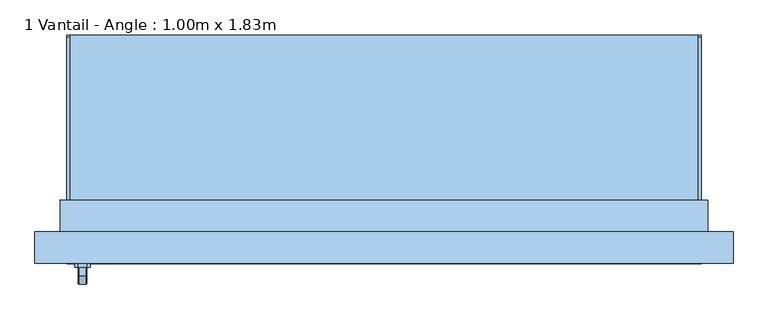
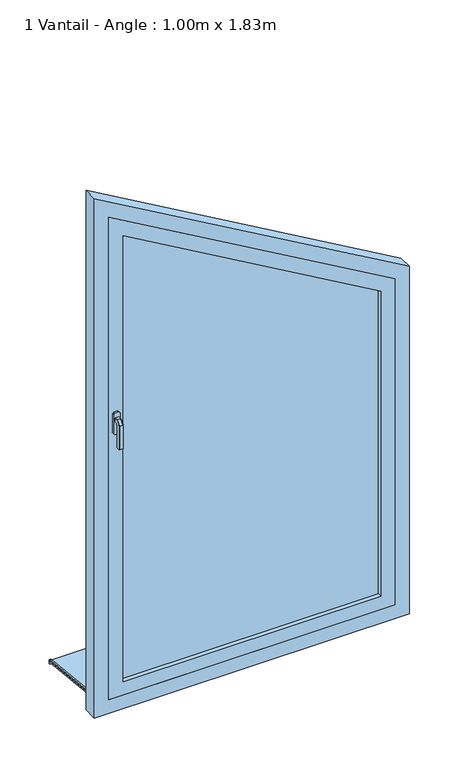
"""IFC4 building model written with IfcOpenShell, lengths in millimetres: window geometry, 1 Vantail - Angle : 1.00m x 1.83m."""

from ifc_helpers import new_model, si_unit, point, frame, frame_2d, origin, place, context, project, spatial, polyline, circle_curve, trimmed, segment, composite_curve, outline, extrude, faceted_brep, source, transform, mapped, element, save


def window_1_vantail_angle_1_00m_x_1_83m_b6dea95d(model_context):
    return source(origin(), model_context, "Body", "SolidModel", [
        faceted_brep([(-469.3539903, -181.0, 1122.0339292), (-467.9660708, -181.0, 1120.6460097), (-467.9660708, -181.0, 1109.3323012), (-469.3323012, -181.0, 1107.9660708), (-480.6676988, -181.0, 1107.9660708), (-482.0339292, -181.0, 1109.3323012), (-482.0339292, -181.0, 1120.6460097), (-480.6460097, -181.0, 1122.0339292), (-469.3539903, -193.9135489, 1122.0339292), (-467.9660708, -193.3386538, 1120.6460097), (-467.9660708, -206.6460097, 1107.3386538), (-467.9660708, -206.6460097, 1020.0), (-467.9660708, -195.3323012, 1020.0), (-467.9660708, -195.3323012, 1102.6523623), (-467.9660708, -188.6523623, 1109.3323012), (-469.3323012, -188.0864511, 1107.9660708), (-480.6676988, -188.0864511, 1107.9660708), (-482.0339292, -188.6523623, 1109.3323012), (-482.0339292, -195.3323012, 1102.6523623), (-482.0339292, -195.3323012, 1020.0), (-482.0339292, -206.6460097, 1020.0), (-482.0339292, -206.6460097, 1107.3386538), (-482.0339292, -193.3386538, 1120.6460097), (-480.6460097, -193.9135489, 1122.0339292), (-469.3539903, -208.0339292, 1107.9135489), (-469.3323012, -193.9660708, 1102.0864511), (-480.6676988, -193.9660708, 1102.0864511), (-480.6460097, -208.0339292, 1107.9135489), (-469.3539903, -208.0339292, 1020.0), (-480.6460097, -208.0339292, 1020.0), (-480.6676988, -193.9660708, 1020.0), (-469.3323012, -193.9660708, 1020.0)], [[[0, 1, 2, 3, 4, 5, 6, 7]], [[1, 0, 8, 9]], [[2, 1, 9, 10, 11, 12, 13, 14]], [[3, 2, 14, 15]], [[4, 3, 15, 16]], [[5, 4, 16, 17]], [[6, 5, 17, 18, 19, 20, 21, 22]], [[7, 6, 22, 23]], [[0, 7, 23, 8]], [[9, 8, 24, 10]], [[15, 14, 13, 25]], [[16, 15, 25, 26]], [[17, 16, 26, 18]], [[23, 22, 21, 27]], [[8, 23, 27, 24]], [[28, 29, 20, 19, 30, 31, 12, 11]], [[10, 24, 28, 11]], [[25, 13, 12, 31]], [[26, 25, 31, 30]], [[18, 26, 30, 19]], [[27, 21, 20, 29]], [[24, 27, 29, 28]]]),
        extrude(outline(polyline([(1140.0, -468.0), (1140.0, -482.0), (1135.0, -487.0), (1065.0, -487.0), (1060.0, -482.0), (1060.0, -468.0), (1065.0, -463.0), (1135.0, -463.0), (1140.0, -468.0)])), frame((0.0, -181.0, 0.0), z_axis=(0.0, 1.0, 0.0), x_axis=(0.0, 0.0, 1.0)), (0.0, 0.0, 1.0), 6.0),
        extrude(outline(polyline([(185.0288776, 10.8229907), (185.0288776, -0.2552118), (180.0288776, 0.2703094), (180.0288776, 6.0933001), (-95.0, 35.0), (-95.0, 50.0), (-90.0, 50.0), (-90.0, 39.7296906), (185.0288776, 10.8229907)])), frame((-500.0, 0.0, 0.0), z_axis=(1.0, 0.0, 0.0), x_axis=(0.0, 1.0, 0.0)), (0.0, 0.0, 1.0), 1000.0),
        extrude(outline(composite_curve([segment(polyline([(185.0288776, 10.8229907), (-90.0, 39.7296906), (-90.0, 44.757232), (181.4469915, 16.2270035)]), True, "CONTINUOUS"), segment(trimmed(circle_curve(frame_2d((181.0288776, 12.2489159)), 4.0), [point((181.4469915, 16.2270035))], [point((185.0288776, 12.2489159))], False, "CARTESIAN"), True, "CONTINUOUS"), segment(polyline([(185.0288776, 12.2489159), (185.0288776, 10.8229907)]), True, "CONTINUOUS")], self_intersect=False)), frame((-500.0, 0.0, 0.0), z_axis=(1.0, 0.0, 0.0), x_axis=(0.0, 1.0, 0.0)), (0.0, 0.0, 1.0), 5.0),
        extrude(outline(composite_curve([segment(polyline([(185.0288776, 10.8229907), (-90.0, 39.7296906), (-90.0, 44.757232), (181.4469915, 16.2270035)]), True, "CONTINUOUS"), segment(trimmed(circle_curve(frame_2d((181.0288776, 12.2489159)), 4.0), [point((181.4469915, 16.2270035))], [point((185.0288776, 12.2489159))], False, "CARTESIAN"), True, "CONTINUOUS"), segment(polyline([(185.0288776, 12.2489159), (185.0288776, 10.8229907)]), True, "CONTINUOUS")], self_intersect=False)), frame((495.0, 0.0, 0.0), z_axis=(1.0, 0.0, 0.0), x_axis=(0.0, 1.0, 0.0)), (0.0, 0.0, 1.0), 5.0),
        extrude(outline(polyline([(35.0, -510.0), (35.0, -500.0), (1865.0, -500.0), (1287.6497308, 500.0), (35.0, 500.0), (35.0, 510.0), (1293.4232335, 510.0), (1882.3205081, -510.0), (35.0, -510.0)])), frame((0.0, -125.0, 0.0), z_axis=(0.0, 1.0, 0.0), x_axis=(0.0, 0.0, 1.0)), (0.0, 0.0, 1.0), 50.0),
        faceted_brep([(-550.0, -175.0, 35.0), (-550.0, -125.0, 35.0), (-500.0, -125.0, 35.0), (-500.0, -95.0, 35.0), (500.0, -95.0, 35.0), (500.0, -125.0, 35.0), (550.0, -125.0, 35.0), (550.0, -175.0, 35.0), (-550.0, -175.0, 1951.6025404), (-550.0, -125.0, 1951.6025404), (550.0, -125.0, 1316.5172443), (500.0, -125.0, 74.3761425), (-500.0, -125.0, 74.3761425), (-485.0, -125.0, 1839.0192379), (-485.0, -125.0, 100.0), (485.0, -125.0, 100.0), (485.0, -125.0, 1278.9894768), (-500.0, -75.0, 60.9786829), (-500.0, -75.0, 45.0), (-500.0, -85.0, 45.0), (-500.0, -85.0, 50.0), (-500.0, -95.0, 50.0), (500.0, -95.0, 50.0), (500.0, -85.0, 50.0), (500.0, -85.0, 45.0), (500.0, -75.0, 45.0), (500.0, -75.0, 60.9786829), (550.0, -175.0, 1316.5172443), (500.0, -175.0, 1287.6497308), (500.0, -175.0, 85.0), (-500.0, -175.0, 85.0), (-500.0, -175.0, 1865.0), (-485.0, -135.0, 1839.0192379), (-485.0, -135.0, 100.0), (485.0, -135.0, 100.0), (485.0, -135.0, 1278.9894768), (500.0, -135.0, 1287.6497308), (-500.0, -135.0, 1865.0), (-500.0, -135.0, 85.0), (500.0, -135.0, 85.0)], [[[0, 1, 2, 3, 4, 5, 6, 7]], [[1, 0, 8, 9]], [[1, 9, 10, 6, 5, 11, 12, 2], [13, 14, 15, 16]], [[12, 17, 18, 19, 20, 21, 3, 2]], [[3, 21, 22, 4]], [[4, 22, 23, 24, 25, 26, 11, 5]], [[6, 10, 27, 7]], [[0, 7, 27, 8], [28, 29, 30, 31]], [[13, 32, 33, 14]], [[33, 34, 15, 14]], [[35, 16, 15, 34]], [[13, 16, 35, 32]], [[10, 9, 8, 27]], [[17, 12, 11, 26]], [[36, 37, 38, 39], [32, 35, 34, 33]], [[37, 36, 28, 31]], [[38, 37, 31, 30]], [[30, 29, 39, 38]], [[28, 36, 39, 29]], [[18, 17, 26, 25]], [[19, 18, 25, 24]], [[20, 19, 24, 23]], [[21, 20, 23, 22]]]),
        extrude(outline(polyline([(1287.6497308, 500.0), (1865.0, -500.0), (85.0, -500.0), (85.0, 500.0), (1287.6497308, 500.0)]), holes=[polyline([(1778.3974596, -450.0), (1258.7822174, 450.0), (135.0, 450.0), (135.0, -450.0), (1778.3974596, -450.0)])]), frame((0.0, -175.0, 0.0), z_axis=(0.0, 1.0, 0.0), x_axis=(0.0, 0.0, 1.0)), (0.0, 0.0, 1.0), 40.0),
        extrude(outline(polyline([(135.0, -450.0), (135.0, 450.0), (1258.7822174, 450.0), (1778.3974596, -450.0), (135.0, -450.0)])), frame((0.0, -161.0, 0.0), z_axis=(0.0, 1.0, 0.0), x_axis=(0.0, 0.0, 1.0)), (0.0, 0.0, 1.0), 12.0),
    ])


if __name__ == "__main__":
    model = new_model("IFC4")
    model_context = context("Model", 3, world=origin())
    ifc_project = project(units=[si_unit("LENGTHUNIT", "METRE", prefix="MILLI")], contexts=[model_context])
    site = spatial("IfcSite", under=ifc_project)
    building = spatial("IfcBuilding", under=site)
    placement = place(None, origin())
    window_1_vantail_angle_1_00m_x_1_83m_shape = window_1_vantail_angle_1_00m_x_1_83m_b6dea95d(model_context)
    element("IfcWindow", 1, ObjectType="1 Vantail - Angle : 1.00m x 1.83m", at=placement, inside=building, context=model_context, shape_type="MappedRepresentation", body=[
        mapped(window_1_vantail_angle_1_00m_x_1_83m_shape, transform((0.0, 0.0, 0.0), x_axis=(1.0, 0.0, 0.0), y_axis=(0.0, 1.0, 0.0), z_axis=(0.0, 0.0, 1.0))),
    ])
    save(model, "model.ifc")
